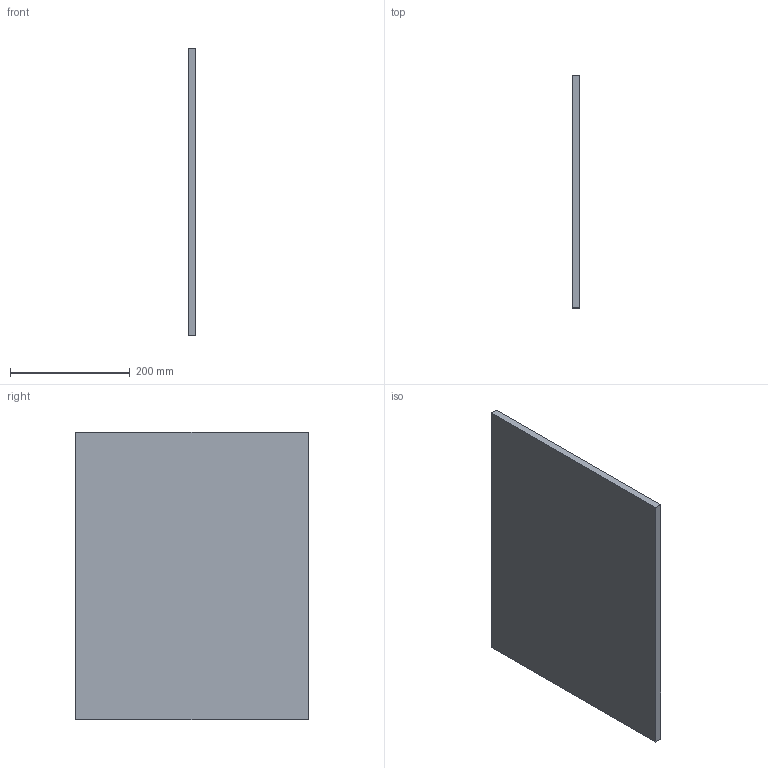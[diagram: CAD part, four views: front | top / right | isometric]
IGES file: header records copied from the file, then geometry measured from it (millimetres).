
Start section: Data from Parasolid IGES Translator 19.0.9, Copyright(c) 2006 Siemens PL M Software. All Rights Reserved.
Global section: file name: noorth-SI-H 48 D 38,8 W 1,2_9688.igs; native system: By Siemens PLM Incorporated; preprocessor: XPlus GENERIC/IGES 19.0.9; author: Noname; organization: Noname; date: 20200710.084218; units: metre
Bounding box: 12 x 388 x 480 mm (x, y, z)
Volume: 2234880 mm3; surface area: 393312 mm2
Topology: 1 solids, 1 shells, 6 faces, 12 edges, 8 vertices
Faces by surface type: plane 6
